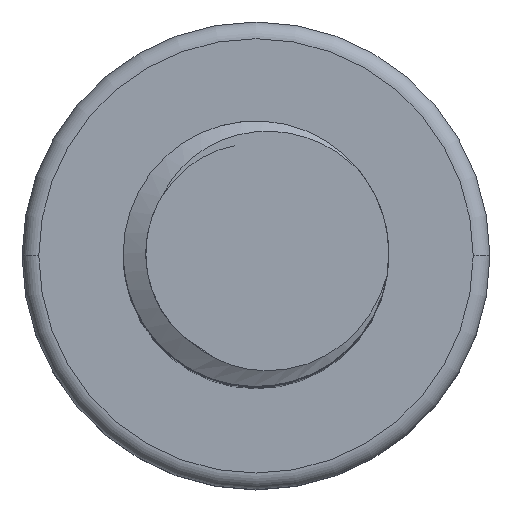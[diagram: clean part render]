
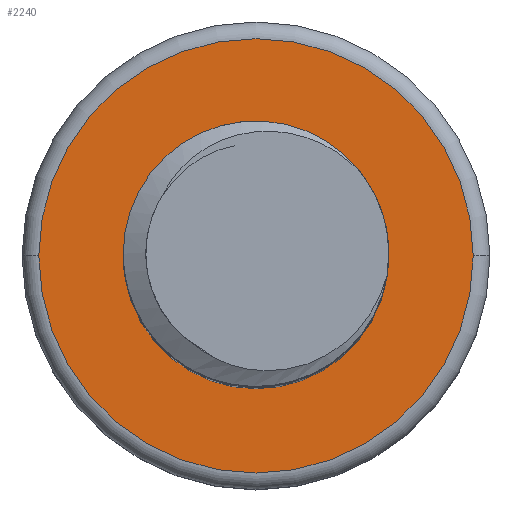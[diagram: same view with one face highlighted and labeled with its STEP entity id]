
A CAD part, top view. The second image highlights one B-rep face of the part: STEP entity #2240.
In plain terms, the highlighted planar face has unit normal (0, 0, 1).
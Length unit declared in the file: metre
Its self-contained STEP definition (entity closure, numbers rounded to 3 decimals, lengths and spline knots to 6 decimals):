
#186 = DIRECTION ( 'NONE',  ( -1., 0., 0. ) ) ;
#259 = DIRECTION ( 'NONE',  ( 1., 0., 0. ) ) ;
#283 = CIRCLE ( 'NONE', #1756, 0.0065 ) ;
#385 = CARTESIAN_POINT ( 'NONE',  ( 0., 0., 0. ) ) ;
#498 = CARTESIAN_POINT ( 'NONE',  ( 0., 0., 0. ) ) ;
#675 = ORIENTED_EDGE ( 'NONE', *, *, #2004, .F. ) ;
#803 = DIRECTION ( 'NONE',  ( 0., 0., 1. ) ) ;
#835 = EDGE_CURVE ( 'NONE', #1684, #1704, #3967, .T. ) ;
#908 = ORIENTED_EDGE ( 'NONE', *, *, #3175, .T. ) ;
#936 = EDGE_LOOP ( 'NONE', ( #908, #1362 ) ) ;
#939 = CARTESIAN_POINT ( 'NONE',  ( 0.003975, 0., 0. ) ) ;
#1160 = DIRECTION ( 'NONE',  ( 0., 0., 1. ) ) ;
#1240 = CARTESIAN_POINT ( 'NONE',  ( -0.003975, 0., 0. ) ) ;
#1362 = ORIENTED_EDGE ( 'NONE', *, *, #2472, .T. ) ;
#1426 = FACE_OUTER_BOUND ( 'NONE', #936, .T. ) ;
#1684 = VERTEX_POINT ( 'NONE', #939 ) ;
#1704 = VERTEX_POINT ( 'NONE', #1240 ) ;
#1756 = AXIS2_PLACEMENT_3D ( 'NONE', #4125, #803, #186 ) ;
#2004 = EDGE_CURVE ( 'NONE', #1704, #1684, #3067, .T. ) ;
#2240 = ADVANCED_FACE ( 'NONE', ( #1426, #3768 ), #4022, .F. ) ;
#2248 = AXIS2_PLACEMENT_3D ( 'NONE', #385, #3374, #3106 ) ;
#2256 = CARTESIAN_POINT ( 'NONE',  ( 0., 0., 0. ) ) ;
#2472 = EDGE_CURVE ( 'NONE', #2688, #2563, #3486, .T. ) ;
#2492 = CARTESIAN_POINT ( 'NONE',  ( -0.0065, 0., 0. ) ) ;
#2563 = VERTEX_POINT ( 'NONE', #2492 ) ;
#2594 = AXIS2_PLACEMENT_3D ( 'NONE', #2256, #4001, #259 ) ;
#2688 = VERTEX_POINT ( 'NONE', #2918 ) ;
#2886 = EDGE_LOOP ( 'NONE', ( #675, #3904 ) ) ;
#2893 = CARTESIAN_POINT ( 'NONE',  ( 0., 0., 0. ) ) ;
#2918 = CARTESIAN_POINT ( 'NONE',  ( 0.0065, 0., 0. ) ) ;
#3067 = CIRCLE ( 'NONE', #2594, 0.003975 ) ;
#3106 = DIRECTION ( 'NONE',  ( -1., 0., 0. ) ) ;
#3150 = DIRECTION ( 'NONE',  ( -1., 0., 0. ) ) ;
#3175 = EDGE_CURVE ( 'NONE', #2563, #2688, #283, .T. ) ;
#3276 = AXIS2_PLACEMENT_3D ( 'NONE', #2893, #1160, #3496 ) ;
#3374 = DIRECTION ( 'NONE',  ( 0., 0., -1. ) ) ;
#3486 = CIRCLE ( 'NONE', #4041, 0.0065 ) ;
#3496 = DIRECTION ( 'NONE',  ( 1., 0., 0. ) ) ;
#3768 = FACE_BOUND ( 'NONE', #2886, .T. ) ;
#3904 = ORIENTED_EDGE ( 'NONE', *, *, #835, .F. ) ;
#3967 = CIRCLE ( 'NONE', #3276, 0.003975 ) ;
#4001 = DIRECTION ( 'NONE',  ( 0., 0., 1. ) ) ;
#4022 = PLANE ( 'NONE',  #2248 ) ;
#4041 = AXIS2_PLACEMENT_3D ( 'NONE', #498, #4174, #3150 ) ;
#4125 = CARTESIAN_POINT ( 'NONE',  ( 0., 0., 0. ) ) ;
#4174 = DIRECTION ( 'NONE',  ( 0., 0., 1. ) ) ;
